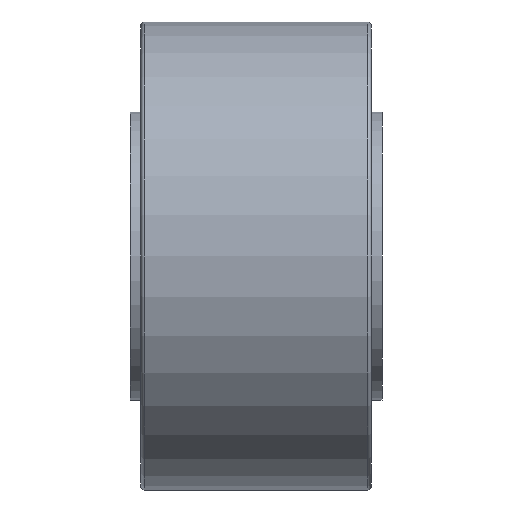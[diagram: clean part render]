
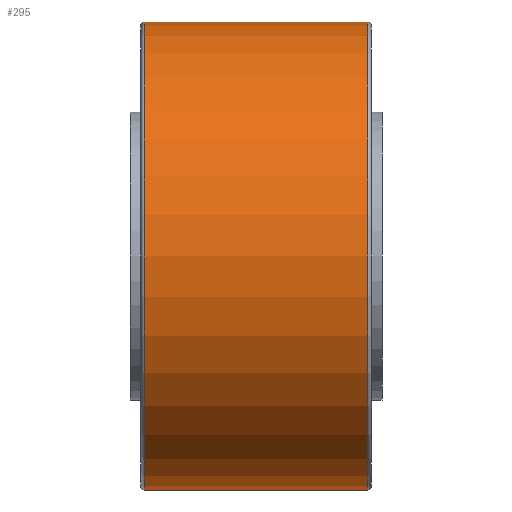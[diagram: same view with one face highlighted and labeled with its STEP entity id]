
A CAD part, front view. The second image highlights one B-rep face of the part: STEP entity #295.
In plain terms, the highlighted cylindrical face has radius 65 mm (diameter 130 mm), a partial arc.
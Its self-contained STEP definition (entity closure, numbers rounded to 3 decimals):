
#1 = EDGE_CURVE ( 'NONE', #1796, #1789, #352, .T. ) ;
#234 = ORIENTED_EDGE ( 'NONE', *, *, #2081, .F. ) ;
#263 = ORIENTED_EDGE ( 'NONE', *, *, #297, .T. ) ;
#269 = EDGE_LOOP ( 'NONE', ( #234, #263, #294, #309 ) ) ;
#290 = EDGE_CURVE ( 'NONE', #1789, #1786, #815, .T. ) ;
#294 = ORIENTED_EDGE ( 'NONE', *, *, #1, .T. ) ;
#295 = ADVANCED_FACE ( 'NONE', ( #848 ), #808, .T. ) ;
#297 = EDGE_CURVE ( 'NONE', #1800, #1796, #836, .T. ) ;
#309 = ORIENTED_EDGE ( 'NONE', *, *, #290, .T. ) ;
#352 = LINE ( 'NONE', #413, #392 ) ;
#392 = VECTOR ( 'NONE', #411, 1000. ) ;
#411 = DIRECTION ( 'NONE',  ( -1., 0., 0. ) ) ;
#413 = CARTESIAN_POINT ( 'NONE',  ( -41.122, 0., 65. ) ) ;
#808 = CYLINDRICAL_SURFACE ( 'NONE', #849, 65. ) ;
#815 = CIRCLE ( 'NONE', #856, 65. ) ;
#833 = DIRECTION ( 'NONE',  ( 0., 0., 1. ) ) ;
#834 = DIRECTION ( 'NONE',  ( -1., 0., 0. ) ) ;
#835 = CARTESIAN_POINT ( 'NONE',  ( 31., 0., 0. ) ) ;
#836 = CIRCLE ( 'NONE', #851, 65. ) ;
#841 = DIRECTION ( 'NONE',  ( 0., 0., 1. ) ) ;
#842 = DIRECTION ( 'NONE',  ( -1., 0., 0. ) ) ;
#846 = CARTESIAN_POINT ( 'NONE',  ( -41.122, 0., 0. ) ) ;
#848 = FACE_OUTER_BOUND ( 'NONE', #269, .T. ) ;
#849 = AXIS2_PLACEMENT_3D ( 'NONE', #846, #842, #841 ) ;
#851 = AXIS2_PLACEMENT_3D ( 'NONE', #835, #834, #833 ) ;
#853 = DIRECTION ( 'NONE',  ( 0., 0., -1. ) ) ;
#854 = DIRECTION ( 'NONE',  ( 1., 0., 0. ) ) ;
#855 = CARTESIAN_POINT ( 'NONE',  ( -31., 0., 0. ) ) ;
#856 = AXIS2_PLACEMENT_3D ( 'NONE', #855, #854, #853 ) ;
#1038 = CARTESIAN_POINT ( 'NONE',  ( -31., 0., -65. ) ) ;
#1070 = CARTESIAN_POINT ( 'NONE',  ( -31., 0., 65. ) ) ;
#1088 = CARTESIAN_POINT ( 'NONE',  ( 31., 0., -65. ) ) ;
#1097 = CARTESIAN_POINT ( 'NONE',  ( 31., 0., 65. ) ) ;
#1397 = DIRECTION ( 'NONE',  ( -1., 0., 0. ) ) ;
#1398 = VECTOR ( 'NONE', #1397, 1000. ) ;
#1406 = LINE ( 'NONE', #1410, #1398 ) ;
#1410 = CARTESIAN_POINT ( 'NONE',  ( -41.122, 0., -65. ) ) ;
#1786 = VERTEX_POINT ( 'NONE', #1038 ) ;
#1789 = VERTEX_POINT ( 'NONE', #1070 ) ;
#1796 = VERTEX_POINT ( 'NONE', #1097 ) ;
#1800 = VERTEX_POINT ( 'NONE', #1088 ) ;
#2081 = EDGE_CURVE ( 'NONE', #1800, #1786, #1406, .T. ) ;
